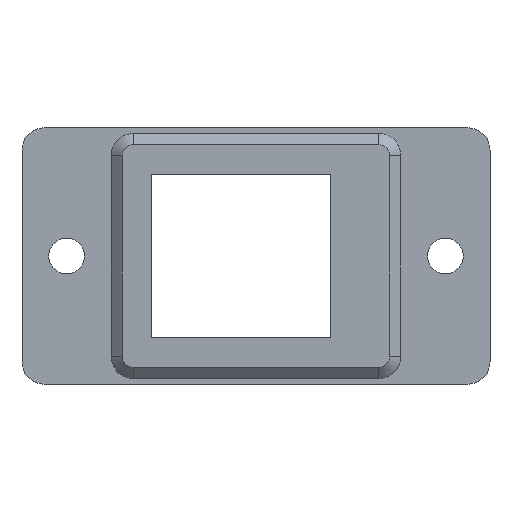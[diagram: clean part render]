
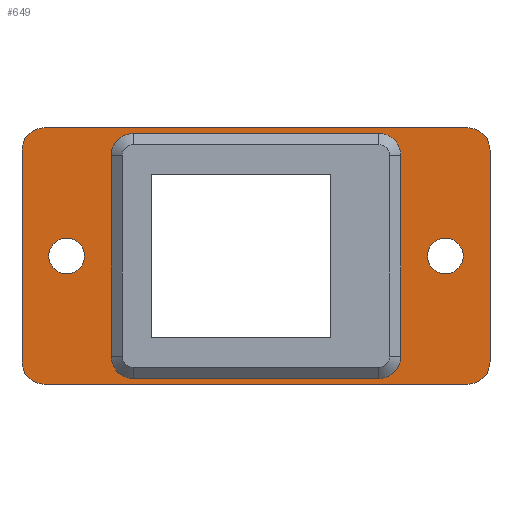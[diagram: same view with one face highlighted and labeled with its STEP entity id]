
A CAD part, top view. The second image highlights one B-rep face of the part: STEP entity #649.
In plain terms, the highlighted planar face has unit normal (0, 0, 1).
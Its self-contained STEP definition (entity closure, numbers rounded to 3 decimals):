
#211 = EDGE_CURVE('',#212,#214,#216,.T.);
#212 = VERTEX_POINT('',#213);
#213 = CARTESIAN_POINT('',(-11.65,-8.4,1.5));
#214 = VERTEX_POINT('',#215);
#215 = CARTESIAN_POINT('',(11.65,-8.4,1.5));
#216 = LINE('',#217,#218);
#217 = CARTESIAN_POINT('',(-12.15,-8.4,1.5));
#218 = VECTOR('',#219,1.);
#219 = DIRECTION('',(1.,0.,0.));
#242 = EDGE_CURVE('',#212,#243,#245,.T.);
#243 = VERTEX_POINT('',#244);
#244 = CARTESIAN_POINT('',(-12.15,-7.9,1.5));
#245 = CIRCLE('',#246,0.5);
#246 = AXIS2_PLACEMENT_3D('',#247,#248,#249);
#247 = CARTESIAN_POINT('',(-11.65,-7.9,1.5));
#248 = DIRECTION('',(0.,0.,-1.));
#249 = DIRECTION('',(0.,1.,0.));
#270 = VERTEX_POINT('',#271);
#271 = CARTESIAN_POINT('',(12.15,-7.9,1.5));
#277 = EDGE_CURVE('',#214,#270,#278,.T.);
#278 = CIRCLE('',#279,0.5);
#279 = AXIS2_PLACEMENT_3D('',#280,#281,#282);
#280 = CARTESIAN_POINT('',(11.65,-7.9,1.5));
#281 = DIRECTION('',(0.,-0.,1.));
#282 = DIRECTION('',(0.,1.,0.));
#292 = EDGE_CURVE('',#293,#243,#295,.T.);
#293 = VERTEX_POINT('',#294);
#294 = CARTESIAN_POINT('',(-12.15,7.9,1.5));
#295 = LINE('',#296,#297);
#296 = CARTESIAN_POINT('',(-12.15,8.4,1.5));
#297 = VECTOR('',#298,1.);
#298 = DIRECTION('',(0.,-1.,0.));
#316 = EDGE_CURVE('',#270,#317,#319,.T.);
#317 = VERTEX_POINT('',#318);
#318 = CARTESIAN_POINT('',(12.15,7.9,1.5));
#319 = LINE('',#320,#321);
#320 = CARTESIAN_POINT('',(12.15,-8.4,1.5));
#321 = VECTOR('',#322,1.);
#322 = DIRECTION('',(0.,1.,0.));
#340 = EDGE_CURVE('',#293,#341,#343,.T.);
#341 = VERTEX_POINT('',#342);
#342 = CARTESIAN_POINT('',(-11.65,8.4,1.5));
#343 = CIRCLE('',#344,0.5);
#344 = AXIS2_PLACEMENT_3D('',#345,#346,#347);
#345 = CARTESIAN_POINT('',(-11.65,7.9,1.5));
#346 = DIRECTION('',(0.,0.,-1.));
#347 = DIRECTION('',(0.,1.,0.));
#368 = VERTEX_POINT('',#369);
#369 = CARTESIAN_POINT('',(11.65,8.4,1.5));
#375 = EDGE_CURVE('',#317,#368,#376,.T.);
#376 = CIRCLE('',#377,0.5);
#377 = AXIS2_PLACEMENT_3D('',#378,#379,#380);
#378 = CARTESIAN_POINT('',(11.65,7.9,1.5));
#379 = DIRECTION('',(0.,-0.,1.));
#380 = DIRECTION('',(0.,1.,0.));
#390 = EDGE_CURVE('',#368,#341,#391,.T.);
#391 = LINE('',#392,#393);
#392 = CARTESIAN_POINT('',(12.15,8.4,1.5));
#393 = VECTOR('',#394,1.);
#394 = DIRECTION('',(-1.,0.,0.));
#409 = VERTEX_POINT('',#410);
#410 = CARTESIAN_POINT('',(-19.,-11.5,1.5));
#416 = EDGE_CURVE('',#409,#417,#419,.T.);
#417 = VERTEX_POINT('',#418);
#418 = CARTESIAN_POINT('',(19.,-11.5,1.5));
#419 = LINE('',#420,#421);
#420 = CARTESIAN_POINT('',(-21.,-11.5,1.5));
#421 = VECTOR('',#422,1.);
#422 = DIRECTION('',(1.,0.,0.));
#439 = EDGE_CURVE('',#409,#440,#442,.T.);
#440 = VERTEX_POINT('',#441);
#441 = CARTESIAN_POINT('',(-21.,-9.5,1.5));
#442 = CIRCLE('',#443,2.);
#443 = AXIS2_PLACEMENT_3D('',#444,#445,#446);
#444 = CARTESIAN_POINT('',(-19.,-9.5,1.5));
#445 = DIRECTION('',(-0.,-0.,-1.));
#446 = DIRECTION('',(0.,-1.,0.));
#465 = VERTEX_POINT('',#466);
#466 = CARTESIAN_POINT('',(21.,-9.5,1.5));
#472 = EDGE_CURVE('',#417,#465,#473,.T.);
#473 = CIRCLE('',#474,2.);
#474 = AXIS2_PLACEMENT_3D('',#475,#476,#477);
#475 = CARTESIAN_POINT('',(19.,-9.5,1.5));
#476 = DIRECTION('',(-0.,0.,1.));
#477 = DIRECTION('',(0.,-1.,0.));
#490 = VERTEX_POINT('',#491);
#491 = CARTESIAN_POINT('',(-21.,9.5,1.5));
#497 = EDGE_CURVE('',#490,#440,#498,.T.);
#498 = LINE('',#499,#500);
#499 = CARTESIAN_POINT('',(-21.,11.5,1.5));
#500 = VECTOR('',#501,1.);
#501 = DIRECTION('',(0.,-1.,0.));
#514 = EDGE_CURVE('',#465,#515,#517,.T.);
#515 = VERTEX_POINT('',#516);
#516 = CARTESIAN_POINT('',(21.,9.5,1.5));
#517 = LINE('',#518,#519);
#518 = CARTESIAN_POINT('',(21.,-11.5,1.5));
#519 = VECTOR('',#520,1.);
#520 = DIRECTION('',(0.,1.,0.));
#537 = EDGE_CURVE('',#490,#538,#540,.T.);
#538 = VERTEX_POINT('',#539);
#539 = CARTESIAN_POINT('',(-19.,11.5,1.5));
#540 = CIRCLE('',#541,2.);
#541 = AXIS2_PLACEMENT_3D('',#542,#543,#544);
#542 = CARTESIAN_POINT('',(-19.,9.5,1.5));
#543 = DIRECTION('',(-0.,-0.,-1.));
#544 = DIRECTION('',(0.,-1.,0.));
#563 = VERTEX_POINT('',#564);
#564 = CARTESIAN_POINT('',(19.,11.5,1.5));
#570 = EDGE_CURVE('',#515,#563,#571,.T.);
#571 = CIRCLE('',#572,2.);
#572 = AXIS2_PLACEMENT_3D('',#573,#574,#575);
#573 = CARTESIAN_POINT('',(19.,9.5,1.5));
#574 = DIRECTION('',(-0.,0.,1.));
#575 = DIRECTION('',(0.,-1.,0.));
#588 = EDGE_CURVE('',#563,#538,#589,.T.);
#589 = LINE('',#590,#591);
#590 = CARTESIAN_POINT('',(21.,11.5,1.5));
#591 = VECTOR('',#592,1.);
#592 = DIRECTION('',(-1.,0.,0.));
#603 = EDGE_CURVE('',#604,#604,#606,.T.);
#604 = VERTEX_POINT('',#605);
#605 = CARTESIAN_POINT('',(-15.4,0.,1.5));
#606 = CIRCLE('',#607,1.6);
#607 = AXIS2_PLACEMENT_3D('',#608,#609,#610);
#608 = CARTESIAN_POINT('',(-17.,0.,1.5));
#609 = DIRECTION('',(0.,0.,1.));
#610 = DIRECTION('',(1.,0.,-0.));
#628 = EDGE_CURVE('',#629,#629,#631,.T.);
#629 = VERTEX_POINT('',#630);
#630 = CARTESIAN_POINT('',(18.6,0.,1.5));
#631 = CIRCLE('',#632,1.6);
#632 = AXIS2_PLACEMENT_3D('',#633,#634,#635);
#633 = CARTESIAN_POINT('',(17.,0.,1.5));
#634 = DIRECTION('',(0.,0.,1.));
#635 = DIRECTION('',(1.,0.,-0.));
#649 = ADVANCED_FACE('',(#650,#660,#670,#673),#676,.T.);
#650 = FACE_BOUND('',#651,.T.);
#651 = EDGE_LOOP('',(#652,#653,#654,#655,#656,#657,#658,#659));
#652 = ORIENTED_EDGE('',*,*,#211,.F.);
#653 = ORIENTED_EDGE('',*,*,#242,.T.);
#654 = ORIENTED_EDGE('',*,*,#292,.F.);
#655 = ORIENTED_EDGE('',*,*,#340,.T.);
#656 = ORIENTED_EDGE('',*,*,#390,.F.);
#657 = ORIENTED_EDGE('',*,*,#375,.F.);
#658 = ORIENTED_EDGE('',*,*,#316,.F.);
#659 = ORIENTED_EDGE('',*,*,#277,.F.);
#660 = FACE_BOUND('',#661,.T.);
#661 = EDGE_LOOP('',(#662,#663,#664,#665,#666,#667,#668,#669));
#662 = ORIENTED_EDGE('',*,*,#416,.T.);
#663 = ORIENTED_EDGE('',*,*,#472,.T.);
#664 = ORIENTED_EDGE('',*,*,#514,.T.);
#665 = ORIENTED_EDGE('',*,*,#570,.T.);
#666 = ORIENTED_EDGE('',*,*,#588,.T.);
#667 = ORIENTED_EDGE('',*,*,#537,.F.);
#668 = ORIENTED_EDGE('',*,*,#497,.T.);
#669 = ORIENTED_EDGE('',*,*,#439,.F.);
#670 = FACE_BOUND('',#671,.T.);
#671 = EDGE_LOOP('',(#672));
#672 = ORIENTED_EDGE('',*,*,#603,.F.);
#673 = FACE_BOUND('',#674,.T.);
#674 = EDGE_LOOP('',(#675));
#675 = ORIENTED_EDGE('',*,*,#628,.F.);
#676 = PLANE('',#677);
#677 = AXIS2_PLACEMENT_3D('',#678,#679,#680);
#678 = CARTESIAN_POINT('',(0.,0.,1.5));
#679 = DIRECTION('',(0.,0.,1.));
#680 = DIRECTION('',(1.,0.,-0.));
